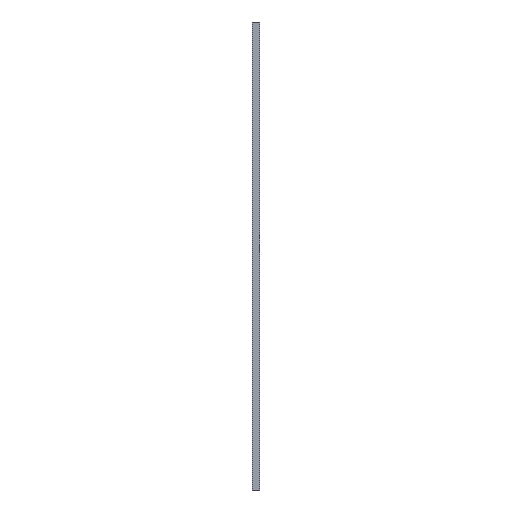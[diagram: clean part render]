
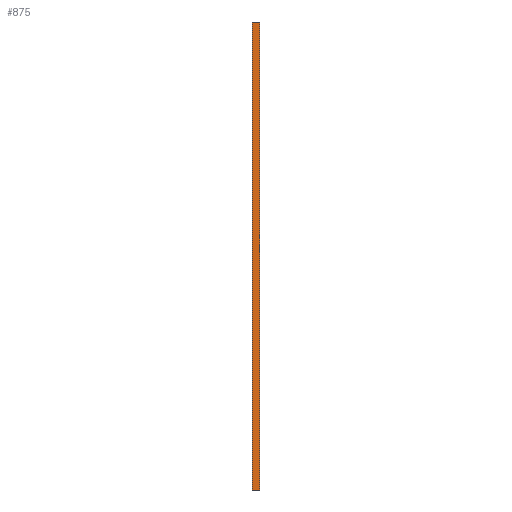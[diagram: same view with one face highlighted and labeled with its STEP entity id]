
A CAD part, left-side view. The second image highlights one B-rep face of the part: STEP entity #875.
In plain terms, the highlighted planar face has unit normal (-1, 0, 0).
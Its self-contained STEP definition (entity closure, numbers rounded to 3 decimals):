
#17 = CARTESIAN_POINT ( 'NONE',  ( -611.5, -20., -1050. ) ) ;
#29 = VERTEX_POINT ( 'NONE', #266 ) ;
#48 = ORIENTED_EDGE ( 'NONE', *, *, #1096, .F. ) ;
#69 = DIRECTION ( 'NONE',  ( 0., 0., 1. ) ) ;
#82 = DIRECTION ( 'NONE',  ( -1., 0., 0. ) ) ;
#122 = DIRECTION ( 'NONE',  ( 0., 0., 1. ) ) ;
#163 = VERTEX_POINT ( 'NONE', #906 ) ;
#195 = CARTESIAN_POINT ( 'NONE',  ( -611.5, 0., -1050. ) ) ;
#219 = CARTESIAN_POINT ( 'NONE',  ( -611.5, -20., -1050. ) ) ;
#223 = VECTOR ( 'NONE', #1059, 1000. ) ;
#249 = CARTESIAN_POINT ( 'NONE',  ( -611.5, 0., 150. ) ) ;
#251 = DIRECTION ( 'NONE',  ( 0., 1., 0. ) ) ;
#266 = CARTESIAN_POINT ( 'NONE',  ( -611.5, 0., -1050. ) ) ;
#418 = EDGE_CURVE ( 'NONE', #29, #746, #723, .T. ) ;
#529 = VERTEX_POINT ( 'NONE', #1004 ) ;
#560 = ORIENTED_EDGE ( 'NONE', *, *, #817, .T. ) ;
#577 = DIRECTION ( 'NONE',  ( 0., 1., 0. ) ) ;
#587 = ORIENTED_EDGE ( 'NONE', *, *, #958, .T. ) ;
#599 = VECTOR ( 'NONE', #251, 1000. ) ;
#658 = FACE_OUTER_BOUND ( 'NONE', #876, .T. ) ;
#674 = LINE ( 'NONE', #1044, #599 ) ;
#714 = VECTOR ( 'NONE', #577, 1000. ) ;
#723 = LINE ( 'NONE', #195, #909 ) ;
#733 = LINE ( 'NONE', #1099, #714 ) ;
#746 = VERTEX_POINT ( 'NONE', #249 ) ;
#760 = ORIENTED_EDGE ( 'NONE', *, *, #418, .F. ) ;
#817 = EDGE_CURVE ( 'NONE', #529, #746, #674, .T. ) ;
#875 = ADVANCED_FACE ( 'NONE', ( #658 ), #1112, .T. ) ;
#876 = EDGE_LOOP ( 'NONE', ( #760, #48, #587, #560 ) ) ;
#906 = CARTESIAN_POINT ( 'NONE',  ( -611.5, -20., -1050. ) ) ;
#909 = VECTOR ( 'NONE', #122, 1000. ) ;
#958 = EDGE_CURVE ( 'NONE', #163, #529, #1037, .T. ) ;
#1004 = CARTESIAN_POINT ( 'NONE',  ( -611.5, -20., 150. ) ) ;
#1036 = AXIS2_PLACEMENT_3D ( 'NONE', #219, #82, #69 ) ;
#1037 = LINE ( 'NONE', #17, #223 ) ;
#1044 = CARTESIAN_POINT ( 'NONE',  ( -611.5, -20., 150. ) ) ;
#1059 = DIRECTION ( 'NONE',  ( 0., 0., 1. ) ) ;
#1096 = EDGE_CURVE ( 'NONE', #163, #29, #733, .T. ) ;
#1099 = CARTESIAN_POINT ( 'NONE',  ( -611.5, -20., -1050. ) ) ;
#1112 = PLANE ( 'NONE',  #1036 ) ;
